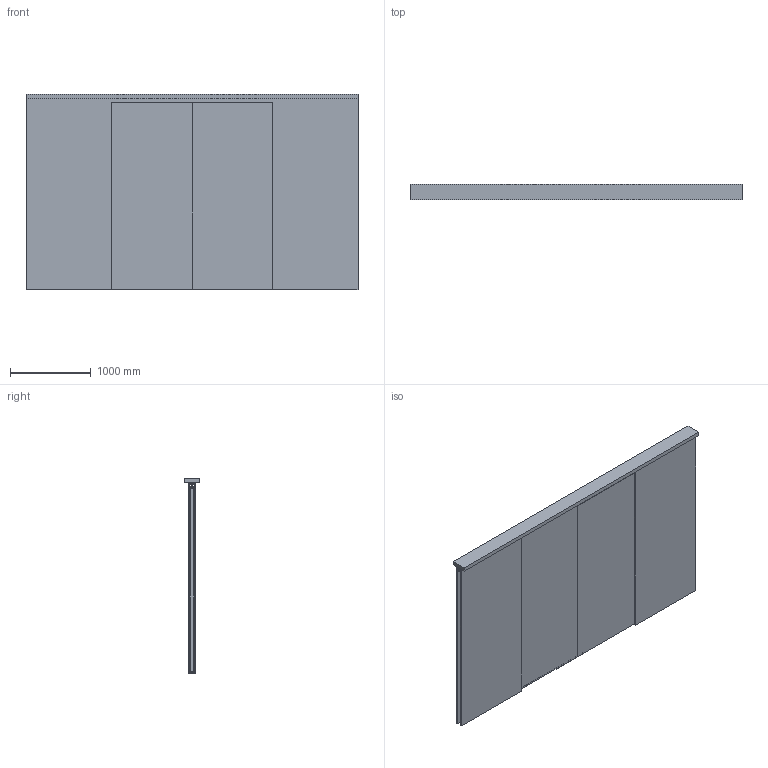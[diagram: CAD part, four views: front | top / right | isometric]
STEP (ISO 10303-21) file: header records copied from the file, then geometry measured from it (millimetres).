
FILE_DESCRIPTION(('STEP AP242'),'1');
FILE_NAME('OPO_65.080.21.stp','2026-01-14T05:26:58',(' '),(' '),'Spatial InterOp 3D',' ',' ');
FILE_SCHEMA(('AP242_MANAGED_MODEL_BASED_3D_ENGINEERING_MIM_LF {1 0 10303 442 1 1 4}'));
Length unit declared in the file: millimetre
Products named in the file (11): Zeichnung2; OPO_65.080.21_Bodenfuehrung_Holz; OPO_65.080.21_Laufwerk; OPO_65.080.21_Laufwerk_mit_Daempfer; OPO_65.080.21_Aktivator; OPO_65.082.61; OPO_65.080.21_Aufhaengung_minimal_Holz; OPO_65.080.21_Aufhaengung_minimal_Holz_mit_Seilspanner; OPO_65.080.21_Umlenkrolle; OPO_65.080.21_Aufhaengung_minimal_Holz_mit_Seilfuehrung; AutoCreatedBlock_1E9
Assembly tree (17 placements, depth 2):
  Zeichnung2
    OPO_65.080.21_Bodenfuehrung_Holz  x2
    OPO_65.080.21_Laufwerk  x3
    OPO_65.080.21_Laufwerk_mit_Daempfer
    OPO_65.080.21_Aktivator  x2
    OPO_65.082.61  x2
    OPO_65.080.21_Aufhaengung_minimal_Holz  x2
    OPO_65.080.21_Aufhaengung_minimal_Holz_mit_Seilspanner
    OPO_65.080.21_Umlenkrolle  x2
    OPO_65.080.21_Aufhaengung_minimal_Holz_mit_Seilfuehrung
    AutoCreatedBlock_1E9
Bounding box: 4100 x 188 x 2418 mm (x, y, z)
Volume: 427828722.1 mm3; surface area: 34859854.9 mm2
Topology: 133 solids, 133 shells, 2124 faces, 5270 edges, 3484 vertices
Faces by surface type: plane 1188, cylinder 884, cone 36, torus 16
Entity records: 52094 total; most frequent: DIRECTION 7278, CARTESIAN_POINT 7221, ORIENTED_EDGE 6752, EDGE_CURVE 3376, AXIS2_PLACEMENT_3D 2529, VERTEX_POINT 2234, LINE 2220, VECTOR 2220
